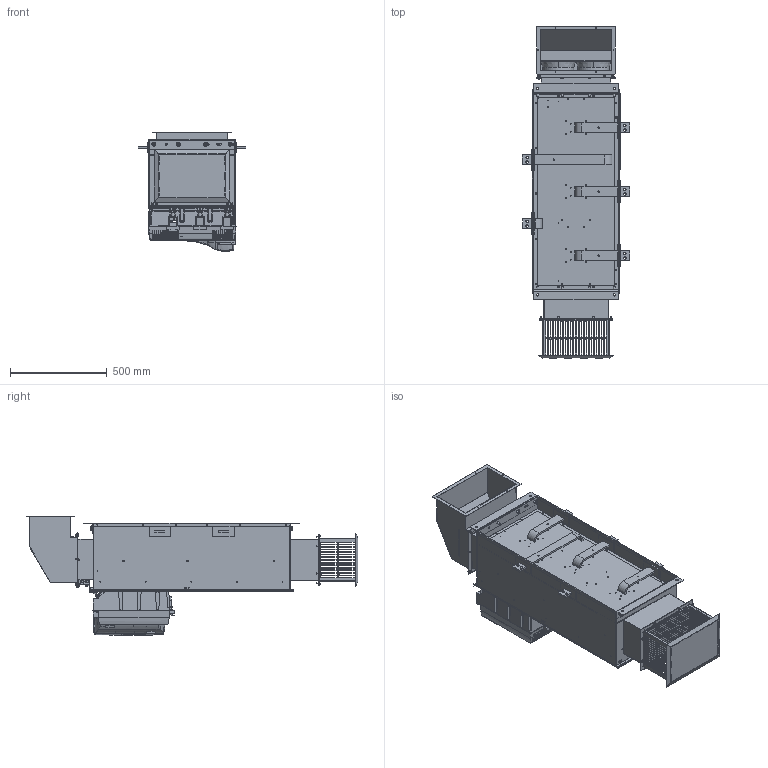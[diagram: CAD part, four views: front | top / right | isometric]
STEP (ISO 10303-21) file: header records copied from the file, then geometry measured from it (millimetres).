
FILE_DESCRIPTION((''),'2;1');
FILE_NAME('MENTOR_2D','2010-03-11T',('wongch01'),(''),'PRO/ENGINEER BY PARAMETRIC TECHNOLOGY CORPORATION, 2007160','PRO/ENGINEER BY PARAMETRIC TECHNOLOGY CORPORATION, 2007160','');
FILE_SCHEMA(('CONFIG_CONTROL_DESIGN'));
Products named in the file (1): MENTOR_2D
Bounding box: 553.55 x 1711.1 x 611.97 mm (x, y, z)
Surface area: 7858045 mm2
Topology: 1 solids, 340 shells, 1475 faces, 12094 edges, 10654 vertices
Faces by surface type: plane 924, cylinder 299, bspline 108, torus 65, cone 51, sphere 17, revolution 11
Entity records: 137737 total; most frequent: CARTESIAN_POINT 39838, DIRECTION 18184, ORIENTED_EDGE 14582, EDGE_CURVE 12094, VERTEX_POINT 10654, VECTOR 6809, LINE 6809, AXIS2_PLACEMENT_3D 5682
